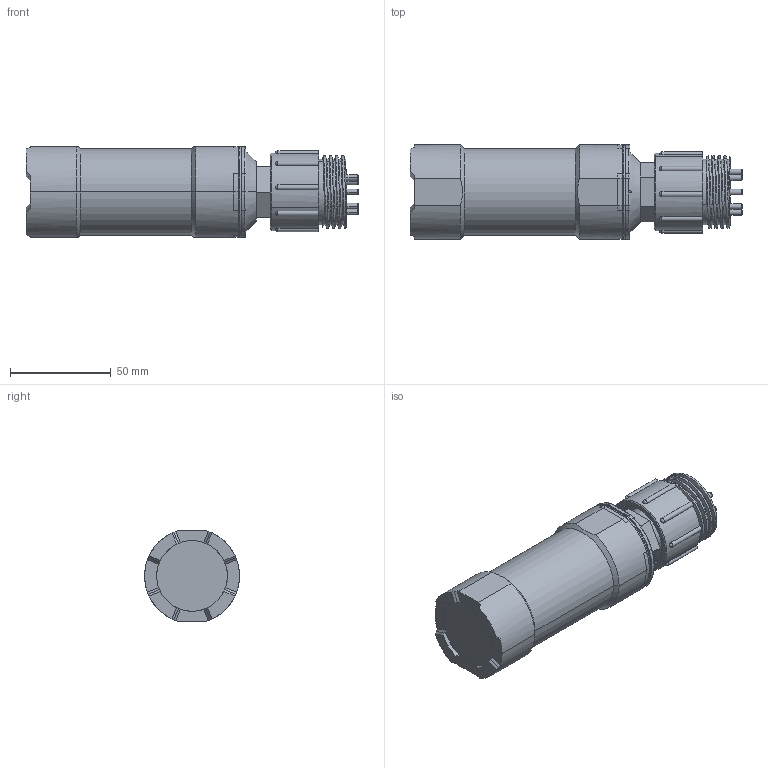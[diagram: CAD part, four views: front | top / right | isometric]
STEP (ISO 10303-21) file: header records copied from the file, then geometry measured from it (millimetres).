
FILE_DESCRIPTION (( 'STEP AP214' ), '1' );
FILE_NAME ('ISA500 1100 bar.STEP', '2021-03-15T12:34:19', ( '' ), ( '' ), 'SwSTEP 2.0', 'SolidWorks 2017', '' );
FILE_SCHEMA (( 'AUTOMOTIVE_DESIGN' ));
Length unit declared in the file: millimetre
Products named in the file (1): ISA500 1100 bar
Bounding box: 164.5 x 47.05 x 45.06 mm (x, y, z)
Surface area: 39258.8 mm2 (no closed solid volume)
Topology: 0 solids, 9 shells, 356 faces, 1153 edges, 792 vertices
Faces by surface type: cylinder 147, plane 108, cone 48, torus 26, sphere 15, bspline 12
Entity records: 18995 total; most frequent: CARTESIAN_POINT 5274, DIRECTION 2046, ORIENTED_EDGE 2002, EDGE_CURVE 1135, AXIS2_PLACEMENT_3D 803, VERTEX_POINT 783, CIRCLE 458, LINE 440
